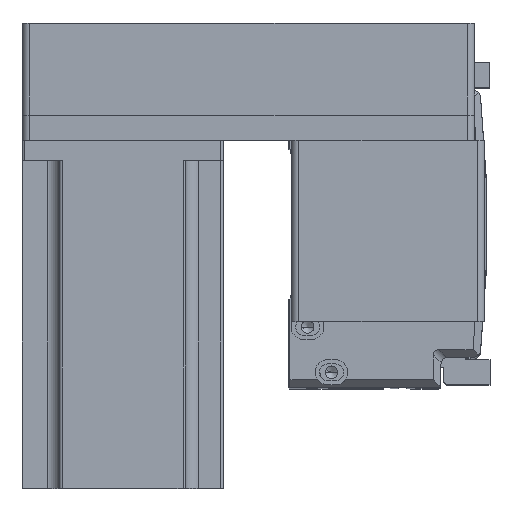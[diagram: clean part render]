
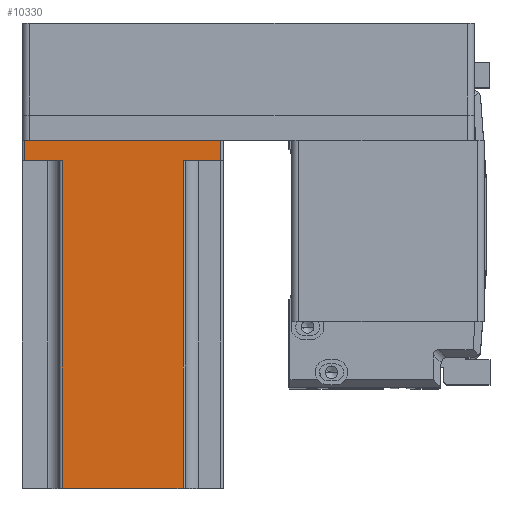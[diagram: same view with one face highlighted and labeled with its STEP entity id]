
A CAD part, top view. The second image highlights one B-rep face of the part: STEP entity #10330.
In plain terms, the highlighted planar face has unit normal (0, 0, 1) as drawn and (0, 1, 0) by its records, which use the part's own axes.
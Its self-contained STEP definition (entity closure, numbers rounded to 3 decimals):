
#2232 = PLANE ( 'NONE',  #2825 ) ;
#2366 = VERTEX_POINT ( 'NONE', #43175 ) ;
#2825 = AXIS2_PLACEMENT_3D ( 'NONE', #35770, #15843, #39128 ) ;
#3671 = VERTEX_POINT ( 'NONE', #17074 ) ;
#4228 = CARTESIAN_POINT ( 'NONE',  ( -24., 40., 138.3 ) ) ;
#5440 = LINE ( 'NONE', #28054, #31009 ) ;
#5729 = CARTESIAN_POINT ( 'NONE',  ( -39., 40., 8. ) ) ;
#6781 = VERTEX_POINT ( 'NONE', #24998 ) ;
#7770 = ORIENTED_EDGE ( 'NONE', *, *, #39210, .F. ) ;
#8045 = VECTOR ( 'NONE', #31137, 1000. ) ;
#8192 = VECTOR ( 'NONE', #38757, 1000. ) ;
#8264 = VECTOR ( 'NONE', #21949, 1000. ) ;
#8403 = CARTESIAN_POINT ( 'NONE',  ( 39., 40., 8. ) ) ;
#8466 = VECTOR ( 'NONE', #10587, 1000. ) ;
#9908 = LINE ( 'NONE', #29486, #26664 ) ;
#10330 = ADVANCED_FACE ( 'NONE', ( #15976 ), #2232, .F. ) ;
#10583 = LINE ( 'NONE', #37114, #8466 ) ;
#10587 = DIRECTION ( 'NONE',  ( 0., 0., -1. ) ) ;
#11041 = ORIENTED_EDGE ( 'NONE', *, *, #30381, .T. ) ;
#11156 = CARTESIAN_POINT ( 'NONE',  ( 24., 40., 138.3 ) ) ;
#11399 = DIRECTION ( 'NONE',  ( 0., 0., 1. ) ) ;
#12182 = EDGE_CURVE ( 'NONE', #24518, #31691, #10583, .T. ) ;
#12510 = VERTEX_POINT ( 'NONE', #5729 ) ;
#13757 = EDGE_CURVE ( 'NONE', #31691, #3671, #17621, .T. ) ;
#14424 = LINE ( 'NONE', #36664, #32147 ) ;
#15643 = ORIENTED_EDGE ( 'NONE', *, *, #12182, .T. ) ;
#15843 = DIRECTION ( 'NONE',  ( 0., -1., 0. ) ) ;
#15976 = FACE_OUTER_BOUND ( 'NONE', #24957, .T. ) ;
#16720 = DIRECTION ( 'NONE',  ( 0., 0., 1. ) ) ;
#17074 = CARTESIAN_POINT ( 'NONE',  ( -39., 40., 0. ) ) ;
#17592 = ORIENTED_EDGE ( 'NONE', *, *, #13757, .T. ) ;
#17621 = LINE ( 'NONE', #23034, #34285 ) ;
#18802 = CARTESIAN_POINT ( 'NONE',  ( 40., 40., 138.3 ) ) ;
#20213 = ORIENTED_EDGE ( 'NONE', *, *, #35925, .T. ) ;
#21949 = DIRECTION ( 'NONE',  ( 1., 0., 0. ) ) ;
#23034 = CARTESIAN_POINT ( 'NONE',  ( 40., 40., 0. ) ) ;
#24518 = VERTEX_POINT ( 'NONE', #8403 ) ;
#24957 = EDGE_LOOP ( 'NONE', ( #29095, #11041, #7770, #20213, #31001, #15643, #17592, #43171 ) ) ;
#24998 = CARTESIAN_POINT ( 'NONE',  ( 24., 40., 138.3 ) ) ;
#25708 = VERTEX_POINT ( 'NONE', #4228 ) ;
#26074 = LINE ( 'NONE', #41933, #8264 ) ;
#26399 = DIRECTION ( 'NONE',  ( -1., 0., 0. ) ) ;
#26664 = VECTOR ( 'NONE', #32816, 1000. ) ;
#28054 = CARTESIAN_POINT ( 'NONE',  ( -24., 40., 138.3 ) ) ;
#28062 = CARTESIAN_POINT ( 'NONE',  ( 24., 40., 8. ) ) ;
#28428 = EDGE_CURVE ( 'NONE', #12510, #2366, #26074, .T. ) ;
#28931 = VERTEX_POINT ( 'NONE', #28062 ) ;
#29095 = ORIENTED_EDGE ( 'NONE', *, *, #28428, .T. ) ;
#29486 = CARTESIAN_POINT ( 'NONE',  ( 25., 40., 8. ) ) ;
#29532 = CARTESIAN_POINT ( 'NONE',  ( 39., 40., 0. ) ) ;
#30381 = EDGE_CURVE ( 'NONE', #2366, #25708, #5440, .T. ) ;
#31001 = ORIENTED_EDGE ( 'NONE', *, *, #32298, .F. ) ;
#31009 = VECTOR ( 'NONE', #11399, 1000. ) ;
#31137 = DIRECTION ( 'NONE',  ( 0., 0., -1. ) ) ;
#31691 = VERTEX_POINT ( 'NONE', #29532 ) ;
#32147 = VECTOR ( 'NONE', #16720, 1000. ) ;
#32298 = EDGE_CURVE ( 'NONE', #24518, #28931, #9908, .T. ) ;
#32816 = DIRECTION ( 'NONE',  ( -1., 0., 0. ) ) ;
#34285 = VECTOR ( 'NONE', #26399, 1000. ) ;
#35770 = CARTESIAN_POINT ( 'NONE',  ( 40., 40., 138.3 ) ) ;
#35925 = EDGE_CURVE ( 'NONE', #6781, #28931, #42513, .T. ) ;
#36664 = CARTESIAN_POINT ( 'NONE',  ( -39., 40., 138.3 ) ) ;
#37114 = CARTESIAN_POINT ( 'NONE',  ( 39., 40., 138.3 ) ) ;
#38757 = DIRECTION ( 'NONE',  ( -1., 0., 0. ) ) ;
#39128 = DIRECTION ( 'NONE',  ( 1., 0., 0. ) ) ;
#39210 = EDGE_CURVE ( 'NONE', #6781, #25708, #42654, .T. ) ;
#41933 = CARTESIAN_POINT ( 'NONE',  ( -25., 40., 8. ) ) ;
#42513 = LINE ( 'NONE', #11156, #8045 ) ;
#42654 = LINE ( 'NONE', #18802, #8192 ) ;
#42878 = EDGE_CURVE ( 'NONE', #3671, #12510, #14424, .T. ) ;
#43171 = ORIENTED_EDGE ( 'NONE', *, *, #42878, .T. ) ;
#43175 = CARTESIAN_POINT ( 'NONE',  ( -24., 40., 8. ) ) ;
